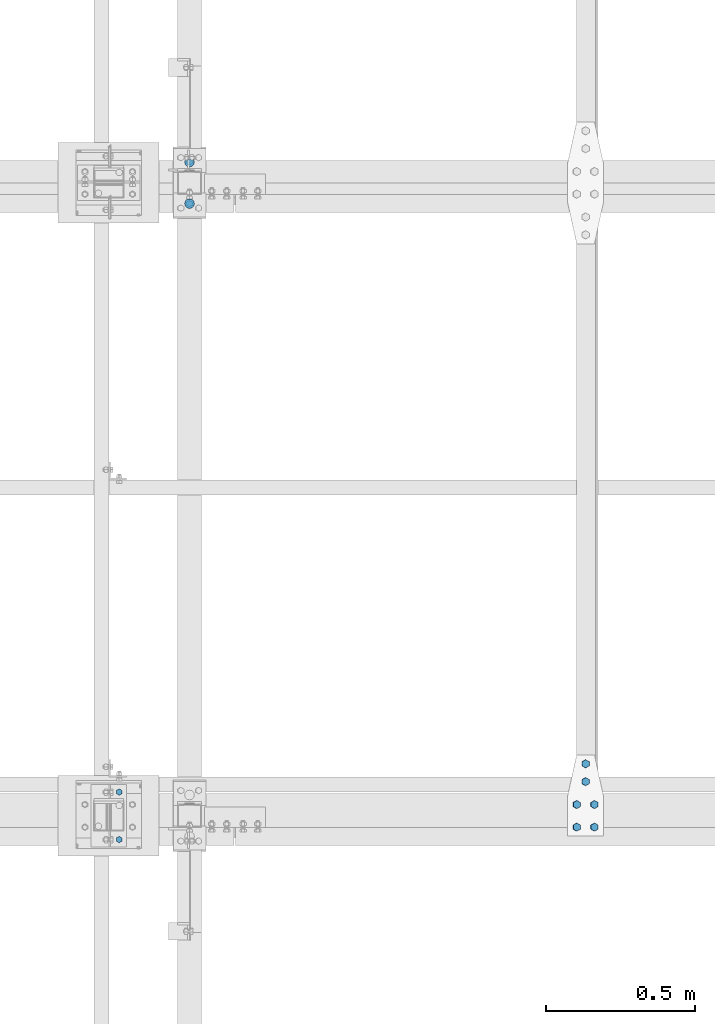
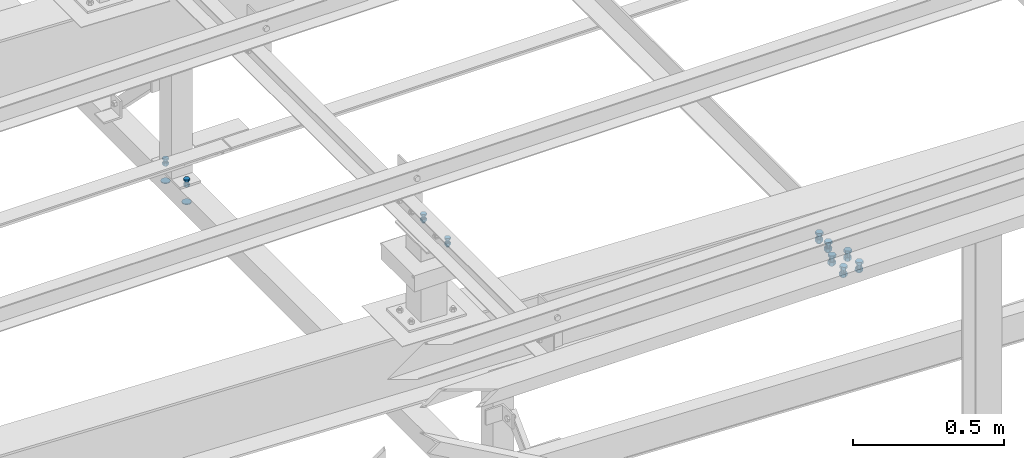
# One storey, part 7 of 3134: 5 mechanical fasteners, 4 elements without a shape of their own.
"""IFC2X3 building model written with IfcOpenShell, lengths in millimetres."""

from ifc_helpers import new_model, si_unit, frame, origin_with_axes, place, context, subcontext, project, spatial, faceted_brep, source, transform, mapped, material, type_object, element, aggregate, save


model = new_model("IFC2X3")

# Units and contexts
model_context = context("Model", 3, precision=1e-05, world=origin_with_axes())
body_context = subcontext(model_context, "Body", "Model", "MODEL_VIEW")
ifc_project = project(units=[si_unit("LENGTHUNIT", "METRE", prefix="MILLI"), si_unit("AREAUNIT", "SQUARE_METRE"), si_unit("VOLUMEUNIT", "CUBIC_METRE"), si_unit("MASSUNIT", "GRAM", prefix="KILO"), si_unit("TIMEUNIT", "SECOND"), si_unit("PLANEANGLEUNIT", "RADIAN"), si_unit("SOLIDANGLEUNIT", "STERADIAN"), si_unit("THERMODYNAMICTEMPERATUREUNIT", "DEGREE_CELSIUS"), si_unit("LUMINOUSINTENSITYUNIT", "LUMEN")], contexts=[model_context])

# Site, building, storey
site_placement = place(None, origin_with_axes())
site = spatial("IfcSite", under=ifc_project, at=site_placement, CompositionType="ELEMENT")
building_placement = place(site_placement, origin_with_axes())
building = spatial("IfcBuilding", under=site, at=building_placement, Name="Undefined", CompositionType="ELEMENT")
storey_placement = place(building_placement, origin_with_axes())
storey = spatial("IfcBuildingStorey", under=building, at=storey_placement, Name="Undefined", CompositionType="ELEMENT", Elevation=0.0)

# Assembly, mechanical fastener
assembly_1_placement = place(storey_placement, origin_with_axes())
assembly_1 = element("IfcElementAssembly", 1, at=assembly_1_placement, inside=storey, AssemblyPlace="NOTDEFINED", PredefinedType="RIGID_FRAME")
ifc_material = material(Name="8.8")
mechanical_fastener_type = type_object("IfcMechanicalFastenerType", Name="Bolt assembly")
shared_shape_1 = source(origin_with_axes(), body_context, "Body", "Brep", [
    faceted_brep([(16.5, -3.0, 0.0), (14.289419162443, -3.0, 8.25000000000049), (8.24999999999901, -3.0, 14.2894191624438), (-1.70995436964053e-12, -3.0, 16.5), (-8.25000000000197, -3.0, 14.2894191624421), (-14.2894191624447, -3.0, 8.24999999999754), (-16.5, -3.0, -3.41990873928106e-12), (-14.2894191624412, -3.0, -8.25000000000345), (-8.24999999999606, -3.0, -14.2894191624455), (5.11154442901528e-12, -3.0, -16.5), (8.25000000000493, -3.0, -14.2894191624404), (14.2894191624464, -3.0, -8.24999999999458), (14.2894191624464, 0.1, -8.24999999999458), (8.25000000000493, 0.1, -14.2894191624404), (5.11154442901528e-12, 0.1, -16.5), (-8.24999999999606, 0.1, -14.2894191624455), (-14.2894191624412, 0.1, -8.25000000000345), (-16.5, 0.1, -3.41990873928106e-12), (-14.2894191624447, 0.1, 8.24999999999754), (-8.25000000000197, 0.1, 14.2894191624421), (-1.70995436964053e-12, 0.1, 16.5), (8.24999999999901, 0.1, 14.2894191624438), (14.289419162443, 0.1, 8.25000000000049), (16.5, 0.1, 0.0)], [[[0, 1, 2, 3, 4, 5, 6, 7, 8, 9, 10, 11]], [[12, 13, 14, 15, 16, 17, 18, 19, 20, 21, 22, 23]], [[0, 23, 22, 1]], [[1, 22, 21, 2]], [[2, 21, 20, 3]], [[3, 20, 19, 4]], [[4, 19, 18, 5]], [[5, 18, 17, 6]], [[6, 17, 16, 7]], [[7, 16, 15, 8]], [[8, 15, 14, 9]], [[9, 14, 13, 10]], [[10, 13, 12, 11]], [[11, 12, 23, 0]]]),
])
mechanical_fastener_1_placement = place(assembly_1_placement, frame((3315.0, 13130.0, 3040.0), z_axis=(1.0, 0.0, 0.0), x_axis=(0.0, -1.0, 0.0)))
mechanical_fastener_1 = element("IfcMechanicalFastener", 2, at=mechanical_fastener_1_placement, type_object=mechanical_fastener_type, material=ifc_material, Name="Bolt assembly", NominalDiameter=30.0, NominalLength=3.0, context=body_context, shape_type="MappedRepresentation", body=[
    mapped(shared_shape_1, transform((0.0, 0.0, 0.0))),
    mapped(shared_shape_1, transform((140.0, 0.0, 0.0))),
])

assembly_2_placement = place(storey_placement, origin_with_axes())
assembly_2 = element("IfcElementAssembly", 3, at=assembly_2_placement, inside=storey, AssemblyPlace="NOTDEFINED", PredefinedType="RIGID_FRAME")
shared_shape_2 = source(origin_with_axes(), body_context, "Body", "Brep", [
    faceted_brep([(10.9696551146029, -14.0, 0.0), (5.48482755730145, -14.0, 9.5), (-5.48482755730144, -14.0, 9.5), (-10.9696551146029, -14.0, 1.34339530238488e-15), (-5.48482755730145, -14.0, -9.5), (5.48482755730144, -14.0, -9.50000000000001), (5.48482755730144, -6.0, -9.50000000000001), (-5.48482755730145, -6.0, -9.5), (-10.9696551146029, -6.0, 1.34339530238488e-15), (-5.48482755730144, -6.0, 9.5), (5.48482755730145, -6.0, 9.5), (10.9696551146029, -6.0, 0.0), (6.0, -6.0, 0.0), (5.19615242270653, -6.0, 3.00000000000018), (2.99999999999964, -6.0, 5.19615242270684), (-6.21801588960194e-13, -6.0, 6.0), (-3.00000000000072, -6.0, 5.19615242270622), (-5.19615242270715, -6.0, 2.9999999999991), (-6.0, -6.0, -1.24360317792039e-12), (-5.19615242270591, -6.0, -3.00000000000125), (-2.99999999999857, -6.0, -5.19615242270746), (1.85874342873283e-12, -6.0, -6.0), (3.00000000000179, -6.0, -5.1961524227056), (5.19615242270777, -6.0, -2.99999999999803), (5.19615242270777, 24.0, -2.99999999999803), (3.00000000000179, 24.0, -5.1961524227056), (1.85874342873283e-12, 24.0, -6.0), (-2.99999999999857, 24.0, -5.19615242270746), (-5.19615242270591, 24.0, -3.00000000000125), (-6.0, 24.0, -1.24360317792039e-12), (-5.19615242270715, 24.0, 2.9999999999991), (-3.00000000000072, 24.0, 5.19615242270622), (-6.21801588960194e-13, 24.0, 6.0), (2.99999999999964, 24.0, 5.19615242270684), (5.19615242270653, 24.0, 3.00000000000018), (6.0, 24.0, 0.0), (10.9696551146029, 6.00000000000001, 0.0), (5.48482755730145, 6.00000000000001, 9.5), (-5.48482755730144, 6.00000000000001, 9.5), (-10.9696551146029, 6.00000000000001, 1.34339530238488e-15), (-5.48482755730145, 6.00000000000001, -9.5), (5.48482755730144, 6.00000000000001, -9.50000000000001), (5.48482755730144, 16.0, -9.50000000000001), (-5.48482755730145, 16.0, -9.5), (-10.9696551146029, 16.0, 1.34339530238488e-15), (-5.48482755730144, 16.0, 9.5), (5.48482755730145, 16.0, 9.5), (10.9696551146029, 16.0, 0.0)], [[[0, 1, 2, 3, 4, 5]], [[6, 7, 8, 9, 10, 11]], [[0, 11, 10, 1]], [[1, 10, 9, 2]], [[2, 9, 8, 3]], [[3, 8, 7, 4]], [[4, 7, 6, 5]], [[5, 6, 11, 0]], [[12, 13, 14, 15, 16, 17, 18, 19, 20, 21, 22, 23]], [[24, 25, 26, 27, 28, 29, 30, 31, 32, 33, 34, 35]], [[12, 35, 34, 13]], [[13, 34, 33, 14]], [[14, 33, 32, 15]], [[15, 32, 31, 16]], [[16, 31, 30, 17]], [[17, 30, 29, 18]], [[18, 29, 28, 19]], [[19, 28, 27, 20]], [[20, 27, 26, 21]], [[21, 26, 25, 22]], [[22, 25, 24, 23]], [[23, 24, 35, 12]], [[36, 37, 38, 39, 40, 41]], [[42, 43, 44, 45, 46, 47]], [[36, 47, 46, 37]], [[37, 46, 45, 38]], [[38, 45, 44, 39]], [[39, 44, 43, 40]], [[40, 43, 42, 41]], [[41, 42, 47, 36]]]),
    faceted_brep([(7.0, -5.9, 0.0), (6.06217782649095, -5.9, 3.50000000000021), (3.49999999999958, -5.9, 6.06217782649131), (-7.25435187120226e-13, -5.9, 7.0), (-3.50000000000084, -5.9, 6.06217782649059), (-6.06217782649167, -5.9, 3.49999999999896), (-7.0, -5.9, -1.45087037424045e-12), (-6.06217782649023, -5.9, -3.50000000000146), (-3.49999999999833, -5.9, -6.06217782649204), (2.1685340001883e-12, -5.9, -7.0), (3.50000000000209, -5.9, -6.06217782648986), (6.0621778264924, -5.9, -3.4999999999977), (6.0621778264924, 0.0999999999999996, -3.4999999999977), (3.50000000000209, 0.0999999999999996, -6.06217782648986), (2.1685340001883e-12, 0.0999999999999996, -7.0), (-3.49999999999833, 0.0999999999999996, -6.06217782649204), (-6.06217782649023, 0.0999999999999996, -3.50000000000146), (-7.0, 0.0999999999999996, -1.45087037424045e-12), (-6.06217782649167, 0.0999999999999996, 3.49999999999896), (-3.50000000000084, 0.0999999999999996, 6.06217782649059), (-7.25435187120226e-13, 0.0999999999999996, 7.0), (3.49999999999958, 0.0999999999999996, 6.06217782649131), (6.06217782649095, 0.0999999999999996, 3.50000000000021), (7.0, 0.0999999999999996, 0.0), (7.0, -0.1, 0.0), (6.06217782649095, -0.1, 3.50000000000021), (3.49999999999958, -0.1, 6.06217782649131), (-7.25435187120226e-13, -0.1, 7.0), (-3.50000000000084, -0.1, 6.06217782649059), (-6.06217782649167, -0.1, 3.49999999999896), (-7.0, -0.1, -1.45087037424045e-12), (-6.06217782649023, -0.1, -3.50000000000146), (-3.49999999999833, -0.1, -6.06217782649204), (2.1685340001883e-12, -0.1, -7.0), (3.50000000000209, -0.1, -6.06217782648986), (6.0621778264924, -0.1, -3.4999999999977), (6.0621778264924, 6.00000000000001, -3.4999999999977), (3.50000000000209, 6.00000000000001, -6.06217782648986), (2.1685340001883e-12, 6.00000000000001, -7.0), (-3.49999999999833, 6.00000000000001, -6.06217782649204), (-6.06217782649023, 6.00000000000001, -3.50000000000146), (-7.0, 6.00000000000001, -1.45087037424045e-12), (-6.06217782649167, 6.00000000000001, 3.49999999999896), (-3.50000000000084, 6.00000000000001, 6.06217782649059), (-7.25435187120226e-13, 6.00000000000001, 7.0), (3.49999999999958, 6.00000000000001, 6.06217782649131), (6.06217782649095, 6.00000000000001, 3.50000000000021), (7.0, 6.00000000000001, 0.0)], [[[0, 1, 2, 3, 4, 5, 6, 7, 8, 9, 10, 11]], [[12, 13, 14, 15, 16, 17, 18, 19, 20, 21, 22, 23]], [[0, 23, 22, 1]], [[1, 22, 21, 2]], [[2, 21, 20, 3]], [[3, 20, 19, 4]], [[4, 19, 18, 5]], [[5, 18, 17, 6]], [[6, 17, 16, 7]], [[7, 16, 15, 8]], [[8, 15, 14, 9]], [[9, 14, 13, 10]], [[10, 13, 12, 11]], [[11, 12, 23, 0]], [[24, 25, 26, 27, 28, 29, 30, 31, 32, 33, 34, 35]], [[36, 37, 38, 39, 40, 41, 42, 43, 44, 45, 46, 47]], [[24, 47, 46, 25]], [[25, 46, 45, 26]], [[26, 45, 44, 27]], [[27, 44, 43, 28]], [[28, 43, 42, 29]], [[29, 42, 41, 30]], [[30, 41, 40, 31]], [[31, 40, 39, 32]], [[32, 39, 38, 33]], [[33, 38, 37, 34]], [[34, 37, 36, 35]], [[35, 36, 47, 24]]]),
])
mechanical_fastener_2_placement = place(assembly_2_placement, frame((3078.33, 10850.0, 4265.0), z_axis=(-1.0, 0.0, 0.0), x_axis=(0.0, 1.0, 0.0)))
mechanical_fastener_2 = element("IfcMechanicalFastener", 4, at=mechanical_fastener_2_placement, type_object=mechanical_fastener_type, material=ifc_material, Name="Bolt assembly", NominalDiameter=12.0, NominalLength=30.0, context=body_context, shape_type="MappedRepresentation", body=[
    mapped(shared_shape_2, transform((0.0, 0.0, 0.0))),
    mapped(shared_shape_2, transform((160.0, 0.0, 0.0))),
])
aggregate(assembly_2, [mechanical_fastener_2])

# Mechanical fastener
shared_shape_3 = source(origin_with_axes(), body_context, "Body", "Brep", [
    faceted_brep([(10.9696551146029, -16.0, 0.0), (5.48482755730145, -16.0, 9.5), (-5.48482755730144, -16.0, 9.5), (-10.9696551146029, -16.0, 1.34339530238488e-15), (-5.48482755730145, -16.0, -9.5), (5.48482755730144, -16.0, -9.50000000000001), (5.48482755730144, -8.0, -9.50000000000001), (-5.48482755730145, -8.0, -9.5), (-10.9696551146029, -8.0, 1.34339530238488e-15), (-5.48482755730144, -8.0, 9.5), (5.48482755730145, -8.0, 9.5), (10.9696551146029, -8.0, 0.0), (6.0, -8.0, 0.0), (5.19615242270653, -8.0, 3.00000000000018), (2.99999999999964, -8.0, 5.19615242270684), (-6.21801588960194e-13, -8.0, 6.0), (-3.00000000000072, -8.0, 5.19615242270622), (-5.19615242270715, -8.0, 2.9999999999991), (-6.0, -8.0, -1.24360317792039e-12), (-5.19615242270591, -8.0, -3.00000000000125), (-2.99999999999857, -8.0, -5.19615242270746), (1.85874342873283e-12, -8.0, -6.0), (3.00000000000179, -8.0, -5.1961524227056), (5.19615242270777, -8.0, -2.99999999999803), (5.19615242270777, 17.0, -2.99999999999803), (3.00000000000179, 17.0, -5.1961524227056), (1.85874342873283e-12, 17.0, -6.0), (-2.99999999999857, 17.0, -5.19615242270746), (-5.19615242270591, 17.0, -3.00000000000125), (-6.0, 17.0, -1.24360317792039e-12), (-5.19615242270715, 17.0, 2.9999999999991), (-3.00000000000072, 17.0, 5.19615242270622), (-6.21801588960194e-13, 17.0, 6.0), (2.99999999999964, 17.0, 5.19615242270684), (5.19615242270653, 17.0, 3.00000000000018), (6.0, 17.0, 0.0), (10.9696551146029, 3.00000000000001, 0.0), (5.48482755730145, 3.00000000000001, 9.5), (-5.48482755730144, 3.00000000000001, 9.5), (-10.9696551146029, 3.00000000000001, 1.34339530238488e-15), (-5.48482755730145, 3.00000000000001, -9.5), (5.48482755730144, 3.00000000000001, -9.50000000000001), (5.48482755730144, 13.0, -9.50000000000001), (-5.48482755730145, 13.0, -9.5), (-10.9696551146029, 13.0, 1.34339530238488e-15), (-5.48482755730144, 13.0, 9.5), (5.48482755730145, 13.0, 9.5), (10.9696551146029, 13.0, 0.0)], [[[0, 1, 2, 3, 4, 5]], [[6, 7, 8, 9, 10, 11]], [[0, 11, 10, 1]], [[1, 10, 9, 2]], [[2, 9, 8, 3]], [[3, 8, 7, 4]], [[4, 7, 6, 5]], [[5, 6, 11, 0]], [[12, 13, 14, 15, 16, 17, 18, 19, 20, 21, 22, 23]], [[24, 25, 26, 27, 28, 29, 30, 31, 32, 33, 34, 35]], [[12, 35, 34, 13]], [[13, 34, 33, 14]], [[14, 33, 32, 15]], [[15, 32, 31, 16]], [[16, 31, 30, 17]], [[17, 30, 29, 18]], [[18, 29, 28, 19]], [[19, 28, 27, 20]], [[20, 27, 26, 21]], [[21, 26, 25, 22]], [[22, 25, 24, 23]], [[23, 24, 35, 12]], [[36, 37, 38, 39, 40, 41]], [[42, 43, 44, 45, 46, 47]], [[36, 47, 46, 37]], [[37, 46, 45, 38]], [[38, 45, 44, 39]], [[39, 44, 43, 40]], [[40, 43, 42, 41]], [[41, 42, 47, 36]]]),
    faceted_brep([(7.0, -7.9, 0.0), (6.06217782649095, -7.9, 3.50000000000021), (3.49999999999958, -7.9, 6.06217782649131), (-7.25435187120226e-13, -7.9, 7.0), (-3.50000000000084, -7.9, 6.06217782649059), (-6.06217782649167, -7.9, 3.49999999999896), (-7.0, -7.9, -1.45087037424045e-12), (-6.06217782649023, -7.9, -3.50000000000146), (-3.49999999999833, -7.9, -6.06217782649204), (2.1685340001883e-12, -7.9, -7.0), (3.50000000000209, -7.9, -6.06217782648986), (6.0621778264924, -7.9, -3.4999999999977), (6.0621778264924, 0.0999999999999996, -3.4999999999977), (3.50000000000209, 0.0999999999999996, -6.06217782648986), (2.1685340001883e-12, 0.0999999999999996, -7.0), (-3.49999999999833, 0.0999999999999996, -6.06217782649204), (-6.06217782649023, 0.0999999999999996, -3.50000000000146), (-7.0, 0.0999999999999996, -1.45087037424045e-12), (-6.06217782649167, 0.0999999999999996, 3.49999999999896), (-3.50000000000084, 0.0999999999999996, 6.06217782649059), (-7.25435187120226e-13, 0.0999999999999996, 7.0), (3.49999999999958, 0.0999999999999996, 6.06217782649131), (6.06217782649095, 0.0999999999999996, 3.50000000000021), (7.0, 0.0999999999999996, 0.0), (7.0, -0.1, 0.0), (6.06217782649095, -0.1, 3.50000000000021), (3.49999999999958, -0.1, 6.06217782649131), (-7.25435187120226e-13, -0.1, 7.0), (-3.50000000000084, -0.1, 6.06217782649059), (-6.06217782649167, -0.1, 3.49999999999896), (-7.0, -0.1, -1.45087037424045e-12), (-6.06217782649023, -0.1, -3.50000000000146), (-3.49999999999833, -0.1, -6.06217782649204), (2.1685340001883e-12, -0.1, -7.0), (3.50000000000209, -0.1, -6.06217782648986), (6.0621778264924, -0.1, -3.4999999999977), (6.0621778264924, 3.0, -3.4999999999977), (3.50000000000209, 3.0, -6.06217782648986), (2.1685340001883e-12, 3.0, -7.0), (-3.49999999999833, 3.0, -6.06217782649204), (-6.06217782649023, 3.0, -3.50000000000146), (-7.0, 3.0, -1.45087037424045e-12), (-6.06217782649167, 3.0, 3.49999999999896), (-3.50000000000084, 3.0, 6.06217782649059), (-7.25435187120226e-13, 3.0, 7.0), (3.49999999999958, 3.0, 6.06217782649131), (6.06217782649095, 3.0, 3.50000000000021), (7.0, 3.0, 0.0)], [[[0, 1, 2, 3, 4, 5, 6, 7, 8, 9, 10, 11]], [[12, 13, 14, 15, 16, 17, 18, 19, 20, 21, 22, 23]], [[0, 23, 22, 1]], [[1, 22, 21, 2]], [[2, 21, 20, 3]], [[3, 20, 19, 4]], [[4, 19, 18, 5]], [[5, 18, 17, 6]], [[6, 17, 16, 7]], [[7, 16, 15, 8]], [[8, 15, 14, 9]], [[9, 14, 13, 10]], [[10, 13, 12, 11]], [[11, 12, 23, 0]], [[24, 25, 26, 27, 28, 29, 30, 31, 32, 33, 34, 35]], [[36, 37, 38, 39, 40, 41, 42, 43, 44, 45, 46, 47]], [[24, 47, 46, 25]], [[25, 46, 45, 26]], [[26, 45, 44, 27]], [[27, 44, 43, 28]], [[28, 43, 42, 29]], [[29, 42, 41, 30]], [[30, 41, 40, 31]], [[31, 40, 39, 32]], [[32, 39, 38, 33]], [[33, 38, 37, 34]], [[34, 37, 36, 35]], [[35, 36, 47, 24]]]),
])
mechanical_fastener_3_placement = place(assembly_1_placement, frame((3315.0, 13130.0, 3120.0), z_axis=(1.0, 0.0, 0.0), x_axis=(0.0, -1.0, 0.0)))
mechanical_fastener_3 = element("IfcMechanicalFastener", 5, at=mechanical_fastener_3_placement, type_object=mechanical_fastener_type, material=ifc_material, Name="Bolt assembly", NominalDiameter=12.0, NominalLength=25.0, context=body_context, shape_type="MappedRepresentation", body=[
    mapped(shared_shape_3, transform((0.0, 0.0, 0.0))),
    mapped(shared_shape_3, transform((140.0, 0.0, 0.0))),
])

aggregate(assembly_1, [mechanical_fastener_1, mechanical_fastener_3])

# Assembly, mechanical fastener
assembly_3_placement = place(storey_placement, origin_with_axes())
assembly_3 = element("IfcElementAssembly", 6, at=assembly_3_placement, inside=storey, Name="300", AssemblyPlace="NOTDEFINED", PredefinedType="RIGID_FRAME")
shared_shape_4 = source(origin_with_axes(), body_context, "Body", "Brep", [
    faceted_brep([(13.856406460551, -23.2000817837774, 0.0), (6.92820323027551, -23.2000817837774, 12.0), (-6.92820323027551, -23.2000817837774, 12.0), (-13.856406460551, -23.2000817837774, 1.69692038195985e-15), (-6.92820323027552, -23.2000817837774, -12.0), (6.9282032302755, -23.2000817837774, -12.0), (6.9282032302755, -13.2000817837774, -12.0), (-6.92820323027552, -13.2000817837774, -12.0), (-13.856406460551, -13.2000817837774, 1.69692038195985e-15), (-6.92820323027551, -13.2000817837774, 12.0), (6.92820323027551, -13.2000817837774, 12.0), (13.856406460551, -13.2000817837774, 0.0), (8.0, -13.2000817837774, 0.0), (6.92820323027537, -13.2000817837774, 4.00000000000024), (3.99999999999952, -13.2000817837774, 6.92820323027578), (-8.29068785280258e-13, -13.2000817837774, 8.0), (-4.00000000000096, -13.2000817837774, 6.92820323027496), (-6.9282032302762, -13.2000817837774, 3.99999999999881), (-8.0, -13.2000817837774, -1.65813757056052e-12), (-6.92820323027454, -13.2000817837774, -4.00000000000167), (-3.99999999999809, -13.2000817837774, -6.92820323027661), (2.47832457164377e-12, -13.2000817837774, -8.0), (4.00000000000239, -13.2000817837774, -6.92820323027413), (6.92820323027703, -13.2000817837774, -3.99999999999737), (6.92820323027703, 21.7999182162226, -3.99999999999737), (4.00000000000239, 21.7999182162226, -6.92820323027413), (2.47832457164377e-12, 21.7999182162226, -8.0), (-3.99999999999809, 21.7999182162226, -6.92820323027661), (-6.92820323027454, 21.7999182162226, -4.00000000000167), (-8.0, 21.7999182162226, -1.65813757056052e-12), (-6.9282032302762, 21.7999182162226, 3.99999999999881), (-4.00000000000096, 21.7999182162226, 6.92820323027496), (-8.29068785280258e-13, 21.7999182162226, 8.0), (3.99999999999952, 21.7999182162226, 6.92820323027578), (6.92820323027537, 21.7999182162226, 4.00000000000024), (8.0, 21.7999182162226, 0.0), (13.856406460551, 3.99999999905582, 0.0), (6.92820323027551, 3.99999999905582, 12.0), (-6.92820323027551, 3.99999999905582, 12.0), (-13.856406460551, 3.99999999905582, 1.69692038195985e-15), (-6.92820323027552, 3.99999999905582, -12.0), (6.9282032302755, 3.99999999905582, -12.0), (6.9282032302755, 16.9999999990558, -12.0), (-6.92820323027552, 16.9999999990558, -12.0), (-13.856406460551, 16.9999999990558, 1.69692038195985e-15), (-6.92820323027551, 16.9999999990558, 12.0), (6.92820323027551, 16.9999999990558, 12.0), (13.856406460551, 16.9999999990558, 0.0)], [[[0, 1, 2, 3, 4, 5]], [[6, 7, 8, 9, 10, 11]], [[0, 11, 10, 1]], [[1, 10, 9, 2]], [[2, 9, 8, 3]], [[3, 8, 7, 4]], [[4, 7, 6, 5]], [[5, 6, 11, 0]], [[12, 13, 14, 15, 16, 17, 18, 19, 20, 21, 22, 23]], [[24, 25, 26, 27, 28, 29, 30, 31, 32, 33, 34, 35]], [[12, 35, 34, 13]], [[13, 34, 33, 14]], [[14, 33, 32, 15]], [[15, 32, 31, 16]], [[16, 31, 30, 17]], [[17, 30, 29, 18]], [[18, 29, 28, 19]], [[19, 28, 27, 20]], [[20, 27, 26, 21]], [[21, 26, 25, 22]], [[22, 25, 24, 23]], [[23, 24, 35, 12]], [[36, 37, 38, 39, 40, 41]], [[42, 43, 44, 45, 46, 47]], [[36, 47, 46, 37]], [[37, 46, 45, 38]], [[38, 45, 44, 39]], [[39, 44, 43, 40]], [[40, 43, 42, 41]], [[41, 42, 47, 36]]]),
    faceted_brep([(9.0, -4.10000000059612, 0.0), (7.79422863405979, -4.10000000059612, 4.50000000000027), (4.49999999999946, -4.10000000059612, 7.79422863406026), (-9.3270238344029e-13, -4.10000000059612, 9.0), (-4.50000000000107, -4.10000000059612, 7.79422863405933), (-7.79422863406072, -4.10000000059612, 4.49999999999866), (-9.0, -4.10000000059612, -1.86540476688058e-12), (-7.79422863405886, -4.10000000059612, -4.50000000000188), (-4.49999999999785, -4.10000000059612, -7.79422863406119), (2.78811514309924e-12, -4.10000000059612, -9.0), (4.50000000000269, -4.10000000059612, -7.7942286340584), (7.79422863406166, -4.10000000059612, -4.49999999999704), (7.79422863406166, 4.00000375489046, -4.49999999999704), (4.50000000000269, 4.00000375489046, -7.7942286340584), (2.78811514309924e-12, 4.00000375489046, -9.0), (-4.49999999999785, 4.00000375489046, -7.79422863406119), (-7.79422863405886, 4.00000375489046, -4.50000000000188), (-9.0, 4.00000375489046, -1.86540476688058e-12), (-7.79422863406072, 4.00000375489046, 4.49999999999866), (-4.50000000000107, 4.00000375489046, 7.79422863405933), (-9.3270238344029e-13, 4.00000375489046, 9.0), (4.49999999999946, 4.00000375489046, 7.79422863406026), (7.79422863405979, 4.00000375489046, 4.50000000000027), (9.0, 4.00000375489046, 0.0), (9.0, -13.1000817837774, 0.0), (7.79422863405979, -13.1000817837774, 4.50000000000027), (4.49999999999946, -13.1000817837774, 7.79422863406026), (-9.3270238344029e-13, -13.1000817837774, 9.0), (-4.50000000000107, -13.1000817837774, 7.79422863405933), (-7.79422863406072, -13.1000817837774, 4.49999999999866), (-9.0, -13.1000817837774, -1.86540476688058e-12), (-7.79422863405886, -13.1000817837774, -4.50000000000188), (-4.49999999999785, -13.1000817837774, -7.79422863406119), (2.78811514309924e-12, -13.1000817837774, -9.0), (4.50000000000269, -13.1000817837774, -7.7942286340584), (7.79422863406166, -13.1000817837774, -4.49999999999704), (7.79422863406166, -3.90008197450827, -4.49999999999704), (4.50000000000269, -3.90008197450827, -7.7942286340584), (2.78811514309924e-12, -3.90008197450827, -9.0), (-4.49999999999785, -3.90008197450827, -7.79422863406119), (-7.79422863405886, -3.90008197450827, -4.50000000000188), (-9.0, -3.90008197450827, -1.86540476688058e-12), (-7.79422863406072, -3.90008197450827, 4.49999999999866), (-4.50000000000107, -3.90008197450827, 7.79422863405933), (-9.3270238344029e-13, -3.90008197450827, 9.0), (4.49999999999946, -3.90008197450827, 7.79422863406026), (7.79422863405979, -3.90008197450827, 4.50000000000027), (9.0, -3.90008197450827, 0.0)], [[[0, 1, 2, 3, 4, 5, 6, 7, 8, 9, 10, 11]], [[12, 13, 14, 15, 16, 17, 18, 19, 20, 21, 22, 23]], [[0, 23, 22, 1]], [[1, 22, 21, 2]], [[2, 21, 20, 3]], [[3, 20, 19, 4]], [[4, 19, 18, 5]], [[5, 18, 17, 6]], [[6, 17, 16, 7]], [[7, 16, 15, 8]], [[8, 15, 14, 9]], [[9, 14, 13, 10]], [[10, 13, 12, 11]], [[11, 12, 23, 0]], [[24, 25, 26, 27, 28, 29, 30, 31, 32, 33, 34, 35]], [[36, 37, 38, 39, 40, 41, 42, 43, 44, 45, 46, 47]], [[24, 47, 46, 25]], [[25, 46, 45, 26]], [[26, 45, 44, 27]], [[27, 44, 43, 28]], [[28, 43, 42, 29]], [[29, 42, 41, 30]], [[30, 41, 40, 31]], [[31, 40, 39, 32]], [[32, 39, 38, 33]], [[33, 38, 37, 34]], [[34, 37, 36, 35]], [[35, 36, 47, 24]]]),
])
mechanical_fastener_4_placement = place(assembly_3_placement, frame((4647.50483518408, 10892.0, 3576.15051901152), z_axis=(-0.999388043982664, 0.0, 0.0349791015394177), x_axis=(0.0, 1.0, 0.0)))
mechanical_fastener_4 = element("IfcMechanicalFastener", 7, at=mechanical_fastener_4_placement, type_object=mechanical_fastener_type, material=ifc_material, Name="Bolt assembly", NominalDiameter=16.0, NominalLength=35.0, context=body_context, shape_type="MappedRepresentation", body=[
    mapped(shared_shape_4, transform((0.0, 4.54747350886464e-13, -30.0000000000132))),
    mapped(shared_shape_4, transform((76.0, -2.00088834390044e-10, -29.9999999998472))),
    mapped(shared_shape_4, transform((0.0, 4.54747350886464e-13, 30.0000000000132))),
    mapped(shared_shape_4, transform((76.0, 1.98269844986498e-10, 29.9999999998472))),
])
aggregate(assembly_3, [mechanical_fastener_4])

assembly_4_placement = place(storey_placement, origin_with_axes())
assembly_4 = element("IfcElementAssembly", 8, at=assembly_4_placement, inside=storey, Name="PL8", AssemblyPlace="NOTDEFINED", PredefinedType="RIGID_FRAME")
shared_shape_5 = source(origin_with_axes(), body_context, "Body", "Brep", [
    faceted_brep([(13.856406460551, -21.0000017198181, 0.0), (6.92820323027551, -21.0000017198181, 12.0), (-6.92820323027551, -21.0000017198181, 12.0), (-13.856406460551, -21.0000017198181, 1.69692038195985e-15), (-6.92820323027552, -21.0000017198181, -12.0), (6.9282032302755, -21.0000017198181, -12.0), (6.9282032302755, -11.0000017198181, -12.0), (-6.92820323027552, -11.0000017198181, -12.0), (-13.856406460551, -11.0000017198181, 1.69692038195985e-15), (-6.92820323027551, -11.0000017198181, 12.0), (6.92820323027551, -11.0000017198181, 12.0), (13.856406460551, -11.0000017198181, 0.0), (8.0, -11.0000017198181, 0.0), (6.92820323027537, -11.0000017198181, 4.00000000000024), (3.99999999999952, -11.0000017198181, 6.92820323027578), (-8.29068785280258e-13, -11.0000017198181, 8.0), (-4.00000000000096, -11.0000017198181, 6.92820323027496), (-6.9282032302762, -11.0000017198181, 3.99999999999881), (-8.0, -11.0000017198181, -1.65813757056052e-12), (-6.92820323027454, -11.0000017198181, -4.00000000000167), (-3.99999999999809, -11.0000017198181, -6.92820323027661), (2.47832457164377e-12, -11.0000017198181, -8.0), (4.00000000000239, -11.0000017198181, -6.92820323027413), (6.92820323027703, -11.0000017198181, -3.99999999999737), (6.92820323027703, 23.9999999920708, -3.99999999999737), (4.00000000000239, 23.9999999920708, -6.92820323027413), (2.47832457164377e-12, 23.9999999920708, -8.0), (-3.99999999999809, 23.9999999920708, -6.92820323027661), (-6.92820323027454, 23.9999999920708, -4.00000000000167), (-8.0, 23.9999999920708, -1.65813757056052e-12), (-6.9282032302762, 23.9999999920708, 3.99999999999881), (-4.00000000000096, 23.9999999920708, 6.92820323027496), (-8.29068785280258e-13, 23.9999999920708, 8.0), (3.99999999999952, 23.9999999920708, 6.92820323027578), (6.92820323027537, 23.9999999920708, 4.00000000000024), (8.0, 23.9999999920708, 0.0), (13.856406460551, 3.99999999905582, 0.0), (6.92820323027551, 3.99999999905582, 12.0), (-6.92820323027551, 3.99999999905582, 12.0), (-13.856406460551, 3.99999999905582, 1.69692038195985e-15), (-6.92820323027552, 3.99999999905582, -12.0), (6.9282032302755, 3.99999999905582, -12.0), (6.9282032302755, 16.9999999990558, -12.0), (-6.92820323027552, 16.9999999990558, -12.0), (-13.856406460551, 16.9999999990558, 1.69692038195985e-15), (-6.92820323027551, 16.9999999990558, 12.0), (6.92820323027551, 16.9999999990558, 12.0), (13.856406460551, 16.9999999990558, 0.0)], [[[0, 1, 2, 3, 4, 5]], [[6, 7, 8, 9, 10, 11]], [[0, 11, 10, 1]], [[1, 10, 9, 2]], [[2, 9, 8, 3]], [[3, 8, 7, 4]], [[4, 7, 6, 5]], [[5, 6, 11, 0]], [[12, 13, 14, 15, 16, 17, 18, 19, 20, 21, 22, 23]], [[24, 25, 26, 27, 28, 29, 30, 31, 32, 33, 34, 35]], [[12, 35, 34, 13]], [[13, 34, 33, 14]], [[14, 33, 32, 15]], [[15, 32, 31, 16]], [[16, 31, 30, 17]], [[17, 30, 29, 18]], [[18, 29, 28, 19]], [[19, 28, 27, 20]], [[20, 27, 26, 21]], [[21, 26, 25, 22]], [[22, 25, 24, 23]], [[23, 24, 35, 12]], [[36, 37, 38, 39, 40, 41]], [[42, 43, 44, 45, 46, 47]], [[36, 47, 46, 37]], [[37, 46, 45, 38]], [[38, 45, 44, 39]], [[39, 44, 43, 40]], [[40, 43, 42, 41]], [[41, 42, 47, 36]]]),
    faceted_brep([(9.0, -10.9000017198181, 0.0), (7.79422863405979, -10.9000017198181, 4.50000000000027), (4.49999999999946, -10.9000017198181, 7.79422863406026), (-9.3270238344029e-13, -10.9000017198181, 9.0), (-4.50000000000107, -10.9000017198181, 7.79422863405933), (-7.79422863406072, -10.9000017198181, 4.49999999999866), (-9.0, -10.9000017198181, -1.86540476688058e-12), (-7.79422863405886, -10.9000017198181, -4.50000000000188), (-4.49999999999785, -10.9000017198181, -7.79422863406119), (2.78811514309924e-12, -10.9000017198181, -9.0), (4.50000000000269, -10.9000017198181, -7.7942286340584), (7.79422863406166, -10.9000017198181, -4.49999999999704), (7.79422863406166, -3.9, -4.49999999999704), (4.50000000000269, -3.9, -7.7942286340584), (2.78811514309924e-12, -3.9, -9.0), (-4.49999999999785, -3.9, -7.79422863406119), (-7.79422863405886, -3.9, -4.50000000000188), (-9.0, -3.9, -1.86540476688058e-12), (-7.79422863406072, -3.9, 4.49999999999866), (-4.50000000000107, -3.9, 7.79422863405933), (-9.3270238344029e-13, -3.9, 9.0), (4.49999999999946, -3.9, 7.79422863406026), (7.79422863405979, -3.9, 4.50000000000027), (9.0, -3.9, 0.0), (9.0, -4.10000000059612, 0.0), (7.79422863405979, -4.10000000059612, 4.50000000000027), (4.49999999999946, -4.10000000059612, 7.79422863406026), (-9.3270238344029e-13, -4.10000000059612, 9.0), (-4.50000000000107, -4.10000000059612, 7.79422863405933), (-7.79422863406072, -4.10000000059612, 4.49999999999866), (-9.0, -4.10000000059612, -1.86540476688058e-12), (-7.79422863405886, -4.10000000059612, -4.50000000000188), (-4.49999999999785, -4.10000000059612, -7.79422863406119), (2.78811514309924e-12, -4.10000000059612, -9.0), (4.50000000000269, -4.10000000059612, -7.7942286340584), (7.79422863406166, -4.10000000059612, -4.49999999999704), (7.79422863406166, 4.00000375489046, -4.49999999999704), (4.50000000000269, 4.00000375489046, -7.7942286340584), (2.78811514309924e-12, 4.00000375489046, -9.0), (-4.49999999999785, 4.00000375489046, -7.79422863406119), (-7.79422863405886, 4.00000375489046, -4.50000000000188), (-9.0, 4.00000375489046, -1.86540476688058e-12), (-7.79422863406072, 4.00000375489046, 4.49999999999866), (-4.50000000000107, 4.00000375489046, 7.79422863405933), (-9.3270238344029e-13, 4.00000375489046, 9.0), (4.49999999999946, 4.00000375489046, 7.79422863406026), (7.79422863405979, 4.00000375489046, 4.50000000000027), (9.0, 4.00000375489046, 0.0)], [[[0, 1, 2, 3, 4, 5, 6, 7, 8, 9, 10, 11]], [[12, 13, 14, 15, 16, 17, 18, 19, 20, 21, 22, 23]], [[0, 23, 22, 1]], [[1, 22, 21, 2]], [[2, 21, 20, 3]], [[3, 20, 19, 4]], [[4, 19, 18, 5]], [[5, 18, 17, 6]], [[6, 17, 16, 7]], [[7, 16, 15, 8]], [[8, 15, 14, 9]], [[9, 14, 13, 10]], [[10, 13, 12, 11]], [[11, 12, 23, 0]], [[24, 25, 26, 27, 28, 29, 30, 31, 32, 33, 34, 35]], [[36, 37, 38, 39, 40, 41, 42, 43, 44, 45, 46, 47]], [[24, 47, 46, 25]], [[25, 46, 45, 26]], [[26, 45, 44, 27]], [[27, 44, 43, 28]], [[28, 43, 42, 29]], [[29, 42, 41, 30]], [[30, 41, 40, 31]], [[31, 40, 39, 32]], [[32, 39, 38, 33]], [[33, 38, 37, 34]], [[34, 37, 36, 35]], [[35, 36, 47, 24]]]),
])
mechanical_fastener_5_placement = place(assembly_4_placement, frame((4647.504835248, 11045.0, 3576.15051901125), z_axis=(-0.999388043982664, 0.0, 0.0349791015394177), x_axis=(0.0, 1.0, 0.0)))
mechanical_fastener_5 = element("IfcMechanicalFastener", 9, at=mechanical_fastener_5_placement, type_object=mechanical_fastener_type, material=ifc_material, Name="Bolt assembly", NominalDiameter=16.0, NominalLength=35.0, context=body_context, shape_type="MappedRepresentation", body=[
    mapped(shared_shape_5, transform((0.0, 0.0, 0.0))),
    mapped(shared_shape_5, transform((59.9999999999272, 0.0, 5.40239852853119e-10))),
])
aggregate(assembly_4, [mechanical_fastener_5])

save(model, "model.ifc")
